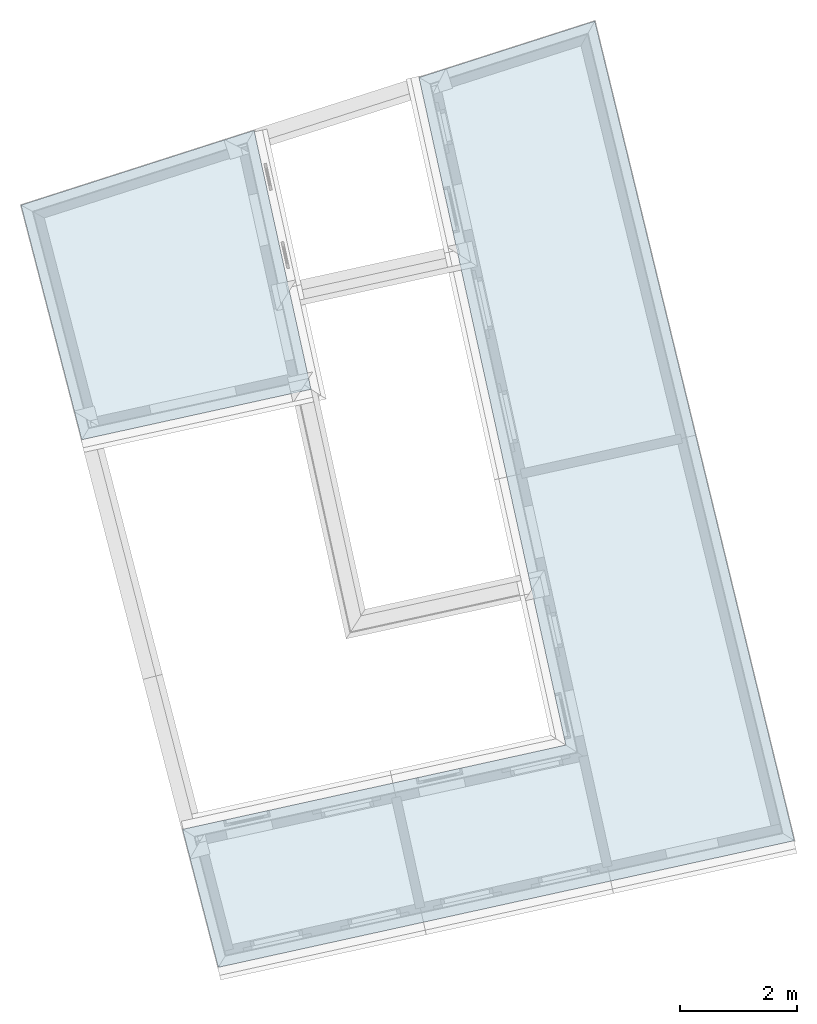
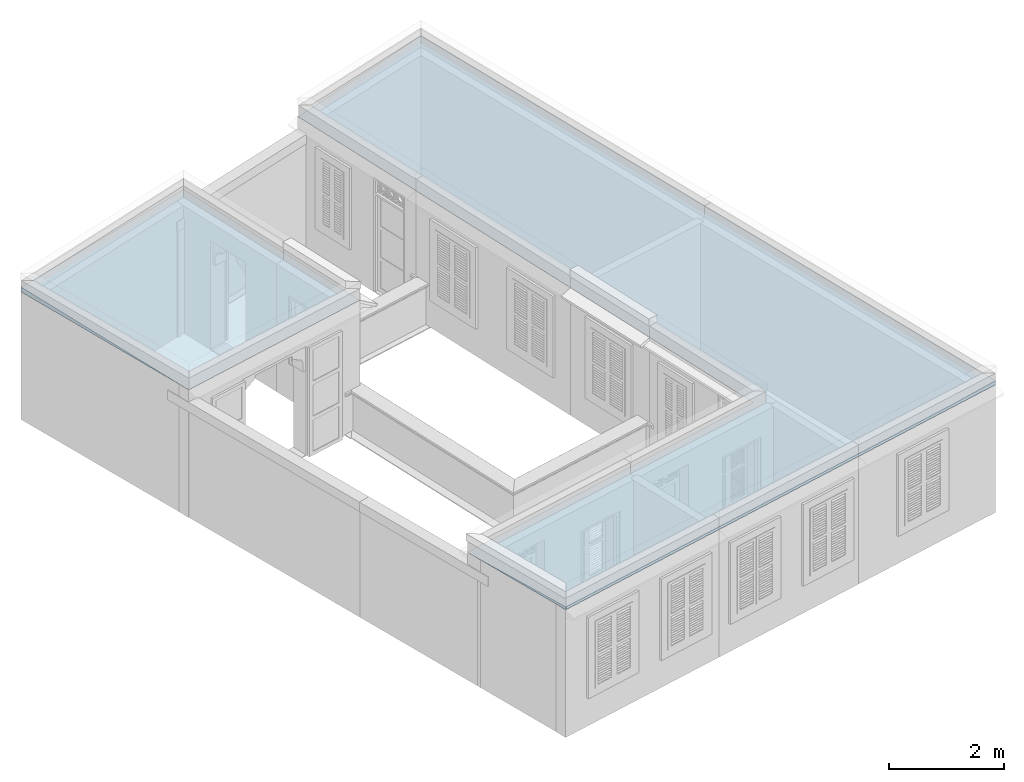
# One storey, part 17 of 17: 1 roof.
"""IFC4 building model written with IfcOpenShell, lengths in metres."""

from ifc_helpers import new_model, si_unit, frame, origin, origin_with_axes, place, context, subcontext, project, spatial, boolean, faceted_brep, element, save


model = new_model("IFC4")

# Units and contexts
model_context = context("Model", 3, world=origin_with_axes())
body_context = subcontext(model_context, "Body", "Model", "MODEL_VIEW")
ifc_project = project(units=[si_unit("PLANEANGLEUNIT", "RADIAN"), si_unit("MASSUNIT", "GRAM", prefix="KILO"), si_unit("FORCEUNIT", "NEWTON", prefix="KILO"), si_unit("LENGTHUNIT", "METRE"), si_unit("AREAUNIT", "SQUARE_METRE"), si_unit("VOLUMEUNIT", "CUBIC_METRE")], contexts=[model_context, model_context])

# Site, building, storey
site_placement = place(None, origin_with_axes())
site = spatial("IfcSite", under=ifc_project, at=site_placement, Name="Site plot-2", CompositionType="ELEMENT")
building_placement = place(None, origin_with_axes())
building = spatial("IfcBuilding", under=site, at=building_placement, Name="Building plot-2", CompositionType="ELEMENT")
storey_placement = place(None, frame((0.0, 0.0, 2.85), z_axis=(0.0, 0.0, 1.0), x_axis=(1.0, 0.0, 0.0)))
storey = spatial("IfcBuildingStorey", under=building, at=storey_placement, Name="plot-2 1", CompositionType="ELEMENT", Elevation=2.85)

# Roof
roof_placement = place(building_placement, origin())
element("IfcRoof", 1, at=roof_placement, inside=storey, Name="Roof", PredefinedType="FREEFORM", context=body_context, shape_type="CSG", body=[
    boolean("UNION", boolean("UNION", faceted_brep([(8.822862, 10.027575, 5.55), (12.743745, 10.889946, 5.55), (7.80737, 14.046366, 5.653578), (7.784777, 14.03912, 5.653522), (7.784777, 14.03912, 5.55), (11.769992, 15.317239, 5.55)], [[[0, 1, 2, 3]], [[4, 5, 1, 0]], [[3, 4, 0]], [[2, 1, 5]], [[2, 5, 4, 3]]]), faceted_brep([(14.590446, 16.2218, 5.55), (17.624607, 2.426597, 5.55), (21.010452, 3.171291, 5.636669), (17.597495, 17.186206, 5.6286), (17.597495, 17.186206, 5.55), (21.010452, 3.171291, 5.55)], [[[0, 1, 2, 3]], [[4, 5, 1, 0]], [[3, 4, 0]], [[2, 1, 5]], [[2, 5, 4, 3]]])), faceted_brep([(20.434046, 5.538234, 5.55), (10.547301, 3.363712, 5.55), (11.157861, 1.004281, 5.610888), (21.010452, 3.171291, 5.610888), (21.010452, 3.171291, 5.55), (11.157861, 1.004281, 5.55)], [[[0, 1, 2, 3]], [[4, 5, 1, 0]], [[3, 4, 0]], [[2, 1, 5]], [[2, 5, 4, 3]]])),
])

save(model, "model.ifc")
